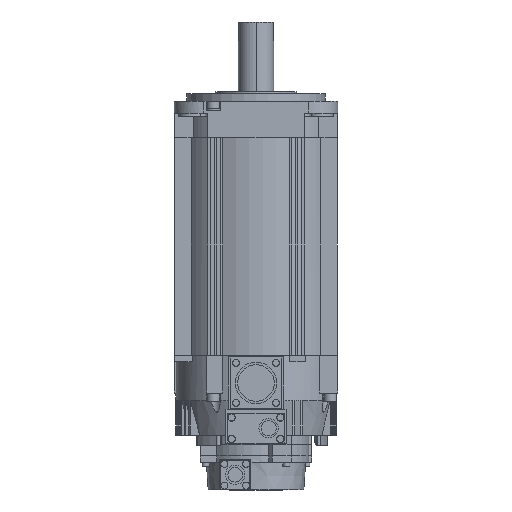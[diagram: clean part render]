
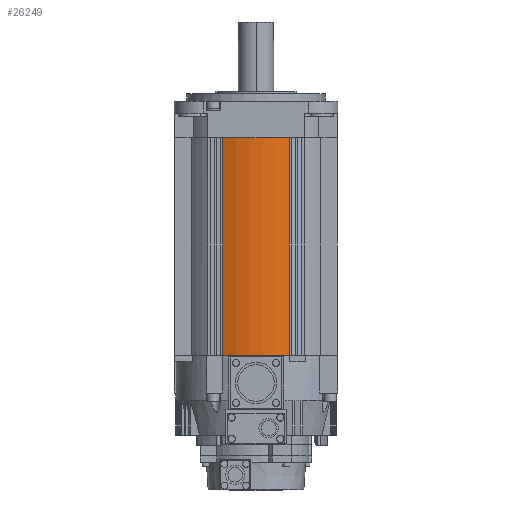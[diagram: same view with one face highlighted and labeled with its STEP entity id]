
A CAD part, front view. The second image highlights one B-rep face of the part: STEP entity #26249.
In plain terms, the highlighted cylindrical face has radius 64.3 mm (diameter 128.6 mm), a partial arc.
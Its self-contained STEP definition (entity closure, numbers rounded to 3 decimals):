
#4512 = DIRECTION ( 'NONE',  ( 1., 0., 0. ) ) ;
#4513 = DIRECTION ( 'NONE',  ( 0., 0., -1. ) ) ;
#4514 = CARTESIAN_POINT ( 'NONE',  ( 0., 0., -202. ) ) ;
#4515 = AXIS2_PLACEMENT_3D ( 'NONE', #4514, #4513, #4512 ) ;
#4516 = CIRCLE ( 'NONE', #4515, 64.3 ) ;
#4522 = CARTESIAN_POINT ( 'NONE',  ( -26.3, -58.675, -202. ) ) ;
#4560 = CARTESIAN_POINT ( 'NONE',  ( 26.3, -58.675, -202. ) ) ;
#10079 = VERTEX_POINT ( 'NONE', #4522 ) ;
#10081 = EDGE_CURVE ( 'NONE', #10093, #10079, #4516, .T. ) ;
#10093 = VERTEX_POINT ( 'NONE', #4560 ) ;
#24557 = DIRECTION ( 'NONE',  ( 0., 0., 1. ) ) ;
#24558 = VECTOR ( 'NONE', #24557, 1000. ) ;
#24559 = CARTESIAN_POINT ( 'NONE',  ( -26.3, -58.675, -383.868 ) ) ;
#24560 = LINE ( 'NONE', #24559, #24558 ) ;
#24571 = CARTESIAN_POINT ( 'NONE',  ( -26.3, -58.675, -29. ) ) ;
#24609 = DIRECTION ( 'NONE',  ( 1., 0., 0. ) ) ;
#24610 = DIRECTION ( 'NONE',  ( 0., 0., 1. ) ) ;
#24611 = CARTESIAN_POINT ( 'NONE',  ( 0., 0., -383.868 ) ) ;
#24612 = AXIS2_PLACEMENT_3D ( 'NONE', #24611, #24610, #24609 ) ;
#24615 = CYLINDRICAL_SURFACE ( 'NONE', #24612, 64.3 ) ;
#24616 = FACE_OUTER_BOUND ( 'NONE', #26160, .T. ) ;
#24811 = CARTESIAN_POINT ( 'NONE',  ( 26.3, -58.675, -29. ) ) ;
#24813 = CIRCLE ( 'NONE', #24874, 64.3 ) ;
#24867 = DIRECTION ( 'NONE',  ( 0., 0., -1. ) ) ;
#24868 = VECTOR ( 'NONE', #24867, 1000. ) ;
#24869 = CARTESIAN_POINT ( 'NONE',  ( 26.3, -58.675, -383.868 ) ) ;
#24870 = DIRECTION ( 'NONE',  ( 1., 0., 0. ) ) ;
#24871 = DIRECTION ( 'NONE',  ( 0., 0., 1. ) ) ;
#24873 = CARTESIAN_POINT ( 'NONE',  ( 0., 0., -29. ) ) ;
#24874 = AXIS2_PLACEMENT_3D ( 'NONE', #24873, #24871, #24870 ) ;
#24875 = LINE ( 'NONE', #24869, #24868 ) ;
#26160 = EDGE_LOOP ( 'NONE', ( #26240, #26361, #26350, #26397 ) ) ;
#26236 = VERTEX_POINT ( 'NONE', #24571 ) ;
#26240 = ORIENTED_EDGE ( 'NONE', *, *, #26242, .F. ) ;
#26242 = EDGE_CURVE ( 'NONE', #10079, #26236, #24560, .T. ) ;
#26249 = ADVANCED_FACE ( 'NONE', ( #24616 ), #24615, .T. ) ;
#26350 = ORIENTED_EDGE ( 'NONE', *, *, #26400, .F. ) ;
#26361 = ORIENTED_EDGE ( 'NONE', *, *, #10081, .F. ) ;
#26396 = VERTEX_POINT ( 'NONE', #24811 ) ;
#26397 = ORIENTED_EDGE ( 'NONE', *, *, #26399, .F. ) ;
#26399 = EDGE_CURVE ( 'NONE', #26236, #26396, #24813, .T. ) ;
#26400 = EDGE_CURVE ( 'NONE', #26396, #10093, #24875, .T. ) ;
